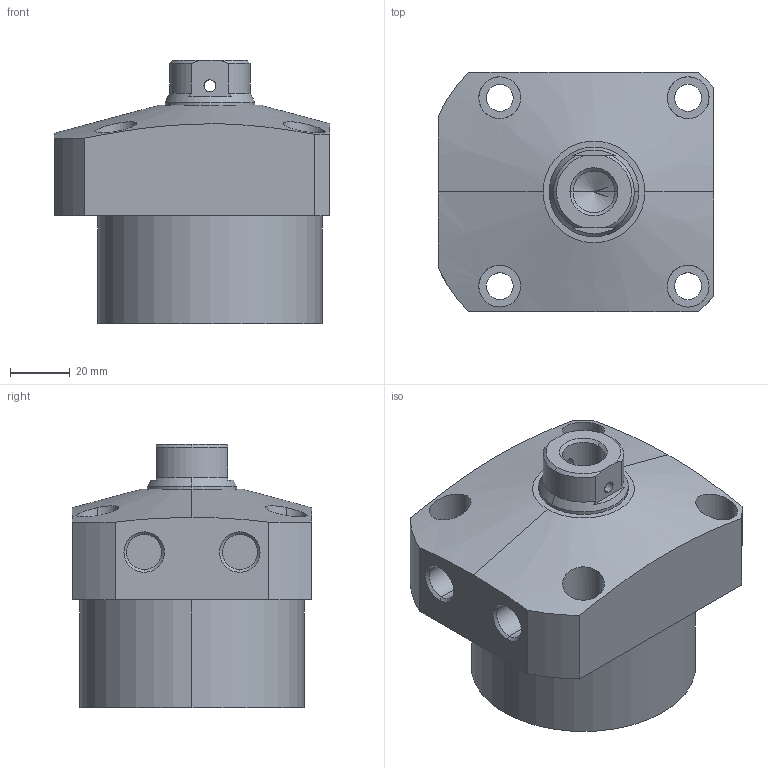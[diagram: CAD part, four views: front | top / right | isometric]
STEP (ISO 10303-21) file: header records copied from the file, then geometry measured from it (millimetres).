
FILE_DESCRIPTION (( 'STEP AP203' ), '1' );
FILE_NAME ('CLL-075CB-020.STEP', '2019-12-20T06:02:43', ( '' ), ( '' ), 'SwSTEP 2.0', 'SolidWorks 2015', '' );
FILE_SCHEMA (( 'CONFIG_CONTROL_DESIGN' ));
Length unit declared in the file: millimetre
Products named in the file (1): CLL-075CB-020
Bounding box: 92 x 80 x 88 mm (x, y, z)
Volume: 381613.8 mm3; surface area: 39836.9 mm2
Topology: 1 solids, 1 shells, 76 faces, 181 edges, 116 vertices
Faces by surface type: cylinder 39, plane 22, cone 15
Entity records: 2809 total; most frequent: CARTESIAN_POINT 932, DIRECTION 386, ORIENTED_EDGE 358, EDGE_CURVE 179, AXIS2_PLACEMENT_3D 158, VERTEX_POINT 116, EDGE_LOOP 99, CIRCLE 81
